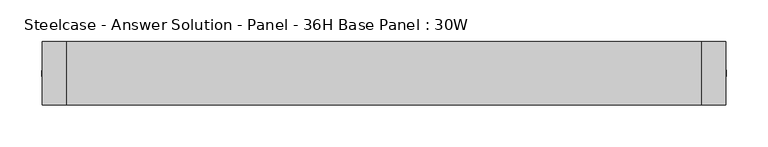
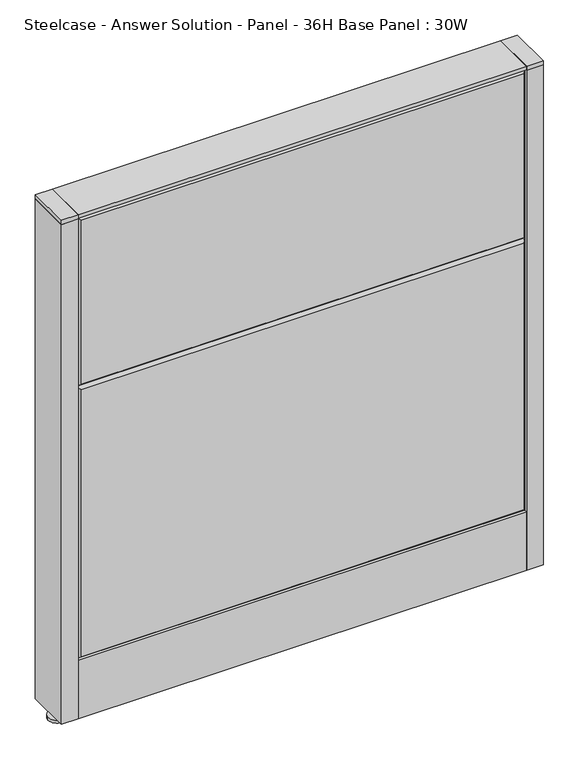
"""IFC4 building model written with IfcOpenShell, lengths in millimetres: furniture geometry, Steelcase - Answer Solution - Panel - 36H Base Panel : 30W."""

import ifcopenshell
import ifcopenshell.guid

model = None  # the IFC model being written
_history = None  # IfcOwnerHistory: only IFC2X3 demands one
_inside = {}  # id of a spatial element -> (the spatial element, [elements in it])
_under = {}  # id of a project, library or spatial element -> (it, [spatial elements below it])
_declared = {}  # id of a project -> (the project, [libraries it declares])
_typed = {}  # id of a type object -> (the type object, [elements of that type])
_made_of = {}  # id of a material, layer set ... -> (it, [elements and type objects made of it])


def new_model(schema):
    """Start an empty IFC model of exactly this schema.

    Asked for "IFC4X3", IfcOpenShell would pick the latest addendum, in which some entities
    have other attributes; the version numbers below select the first issue.
    IFC2X3 requires an IfcOwnerHistory on every rooted entity: one is made here for all.
    """
    global model, _history
    if schema == "IFC4X3":
        model = ifcopenshell.file(schema_version=(4, 3, 0, 0))
    else:
        model = ifcopenshell.file(schema=schema)
    _inside.clear()
    _under.clear()
    _declared.clear()
    _typed.clear()
    _made_of.clear()
    _history = None
    if model.schema == "IFC2X3":
        org = make("IfcOrganization", Name="unknown")
        user = make(
            "IfcPersonAndOrganization",
            ThePerson=make("IfcPerson", FamilyName="unknown"),
            TheOrganization=org,
        )
        app = make(
            "IfcApplication",
            ApplicationDeveloper=org,
            Version="unknown",
            ApplicationFullName="unknown",
            ApplicationIdentifier="unknown",
        )
        _history = make(
            "IfcOwnerHistory",
            OwningUser=user,
            OwningApplication=app,
            ChangeAction="ADDED",
            CreationDate=0,
        )
    return model


def make(cls, **values):
    """One entity of the class cls with the attributes given. An attribute that is None is left unset."""
    return model.create_entity(
        cls, **{name: value for name, value in values.items() if value is not None}
    )


def rooted(cls, **values):
    """An entity with a GlobalId (a new one), such as an element, a storey or a relation."""
    return make(cls, GlobalId=ifcopenshell.guid.new(), OwnerHistory=_history, **values)


def si_unit(unit_type, name, prefix=None):
    """IfcSIUnit, for example si_unit("LENGTHUNIT", "METRE", prefix="MILLI")."""
    return make("IfcSIUnit", UnitType=unit_type, Prefix=prefix, Name=name)


def assignment(units):
    """IfcUnitAssignment: the units of a project."""
    return None if units is None else make("IfcUnitAssignment", Units=units)


def point(xyz):
    """IfcCartesianPoint."""
    return None if xyz is None else make("IfcCartesianPoint", Coordinates=xyz)


def direction(xyz):
    """IfcDirection."""
    return None if xyz is None else make("IfcDirection", DirectionRatios=xyz)


def frame(location, z_axis=None, x_axis=None):
    """IfcAxis2Placement3D, a coordinate frame: its origin and axes. An axis left out is left unset."""
    return make(
        "IfcAxis2Placement3D",
        Location=point(location),
        Axis=direction(z_axis),
        RefDirection=direction(x_axis),
    )


def frame_2d(location, x_axis=None):
    """IfcAxis2Placement2D, a coordinate frame in the plane: its origin and x axis."""
    return make(
        "IfcAxis2Placement2D", Location=point(location), RefDirection=direction(x_axis)
    )


def origin():
    """The frame at (0, 0, 0) with its axes left unset."""
    return frame((0.0, 0.0, 0.0))


def place(relative_to, where):
    """IfcLocalPlacement: puts the frame where relative to a parent placement (None: the world)."""
    return make(
        "IfcLocalPlacement", PlacementRelTo=relative_to, RelativePlacement=where
    )


def context(
    kind, dimensions, precision=None, world=None, true_north=None, identifier=None
):
    """IfcGeometricRepresentationContext, for example the 3D "Model" context."""
    return make(
        "IfcGeometricRepresentationContext",
        ContextIdentifier=identifier,
        ContextType=kind,
        CoordinateSpaceDimension=dimensions,
        Precision=precision,
        WorldCoordinateSystem=world,
        TrueNorth=true_north,
    )


def project(units=None, contexts=None):
    """IfcProject with its units and contexts."""
    return rooted(
        "IfcProject",
        Name="project",
        RepresentationContexts=contexts,
        UnitsInContext=assignment(units),
    )


def spatial(cls, under=None, at=None, **own):
    """A site, building, storey or space (cls), placed at a placement, below another one or the project."""
    s = rooted(cls, ObjectPlacement=at, **own)
    if under is not None:
        _under.setdefault(under.id(), (under, []))[1].append(s)
    return s


def polyline(points):
    """IfcPolyline through the points."""
    return make("IfcPolyline", Points=[point(p) for p in points])


def circle_curve(where, radius):
    """IfcCircle in the frame where."""
    return make("IfcCircle", Position=where, Radius=radius)


def trimmed(basis, trim1, trim2, sense, master):
    """IfcTrimmedCurve: the piece of a basis curve between two trims."""
    return make(
        "IfcTrimmedCurve",
        BasisCurve=basis,
        Trim1=trim1,
        Trim2=trim2,
        SenseAgreement=sense,
        MasterRepresentation=master,
    )


def segment(curve, same_sense, transition):
    """IfcCompositeCurveSegment."""
    return make(
        "IfcCompositeCurveSegment",
        Transition=transition,
        SameSense=same_sense,
        ParentCurve=curve,
    )


def composite_curve(segments, self_intersect=None):
    """IfcCompositeCurve: segments joined end to end."""
    return make("IfcCompositeCurve", Segments=segments, SelfIntersect=self_intersect)


def outline(outer, holes=None, kind="AREA"):
    """IfcArbitraryClosedProfileDef: a profile drawn as a closed curve; with holes, ...WithVoids."""
    if holes is None:
        return make("IfcArbitraryClosedProfileDef", ProfileType=kind, OuterCurve=outer)
    return make(
        "IfcArbitraryProfileDefWithVoids",
        ProfileType=kind,
        OuterCurve=outer,
        InnerCurves=holes,
    )


def extrude(swept, where, along, depth):
    """IfcExtrudedAreaSolid: the profile swept, set in the frame where, extruded along a direction by depth."""
    return make(
        "IfcExtrudedAreaSolid",
        SweptArea=swept,
        Position=where,
        ExtrudedDirection=direction(along),
        Depth=depth,
    )


def faces_of(points, faces, orient=None, outer=None):
    """IfcFace entities. A face is a list of loops; a loop is a list of indices into points, from 0.

    orient and outer hold one flag for each loop. By default every Orientation is true, the
    first loop of a face is its IfcFaceOuterBound and the others are IfcFaceBound.
    """
    made = []
    for i, loops in enumerate(faces):
        bounds = []
        for j, loop in enumerate(loops):
            is_outer = j == 0 if outer is None else outer[i][j]
            bounds.append(
                make(
                    "IfcFaceOuterBound" if is_outer else "IfcFaceBound",
                    Bound=make("IfcPolyLoop", Polygon=[points[k] for k in loop]),
                    Orientation=True if orient is None else orient[i][j],
                )
            )
        made.append(make("IfcFace", Bounds=bounds))
    return made


def faceted_brep(points, faces, orient=None, outer=None, voids=None):
    """IfcFacetedBrep: a solid bounded by flat faces; with voids (closed shells), ...WithVoids."""
    shared = [point(p) for p in points]
    hull = make("IfcClosedShell", CfsFaces=faces_of(shared, faces, orient, outer))
    if voids is None:
        return make("IfcFacetedBrep", Outer=hull)
    return make(
        "IfcFacetedBrepWithVoids",
        Outer=hull,
        Voids=[
            make(cls, CfsFaces=faces_of(shared, fs, o, b)) for cls, fs, o, b in voids
        ],
    )


def shape(context_of_items, identifier, shape_type, items):
    """IfcShapeRepresentation: the items that make up one representation, for example the "Body"."""
    return make(
        "IfcShapeRepresentation",
        ContextOfItems=context_of_items,
        RepresentationIdentifier=identifier,
        RepresentationType=shape_type,
        Items=items,
    )


def source(mapping_origin, context_of_items, identifier, shape_type, items):
    """IfcRepresentationMap: a shape defined once, which mapped items show again and again."""
    return make(
        "IfcRepresentationMap",
        MappingOrigin=mapping_origin,
        MappedRepresentation=shape(context_of_items, identifier, shape_type, items),
    )


def transform(
    local_origin,
    x_axis=None,
    y_axis=None,
    z_axis=None,
    scale=None,
    scale2=None,
    scale3=None,
    uniform=True,
):
    """IfcCartesianTransformationOperator3D, or its non-uniform kind. x_axis, y_axis, z_axis: its Axis1, 2, 3."""
    if uniform:
        return make(
            "IfcCartesianTransformationOperator3D",
            Axis1=direction(x_axis),
            Axis2=direction(y_axis),
            LocalOrigin=point(local_origin),
            Scale=scale,
            Axis3=direction(z_axis),
        )
    return make(
        "IfcCartesianTransformationOperator3DnonUniform",
        Axis1=direction(x_axis),
        Axis2=direction(y_axis),
        LocalOrigin=point(local_origin),
        Scale=scale,
        Axis3=direction(z_axis),
        Scale2=scale2,
        Scale3=scale3,
    )


def mapped(mapping_source, mapping_target):
    """IfcMappedItem: shows the shape of a source again, moved by a transform."""
    return make(
        "IfcMappedItem", MappingSource=mapping_source, MappingTarget=mapping_target
    )


def made_of(thing, what):
    """Note that an element or type object is made of a material, layer set ...; save() writes the relation."""
    if what is not None:
        _made_of.setdefault(what.id(), (what, []))[1].append(thing)
    return thing


def element(
    cls,
    number,
    at=None,
    inside=None,
    cuts=None,
    type_object=None,
    material=None,
    context=None,
    identifier="Body",
    shape_type=None,
    held_by="IfcProductDefinitionShape",
    body=None,
    shapes=None,
    **own,
):
    """One element of the class cls, such as IfcWall. Its Tag is "e" and its number.

    at: its placement. inside: the storey or other place that contains it. cuts: it is an
    opening in that element (IfcRelVoidsElement). A single representation is given by context,
    identifier, shape_type and body (its items); several are given by shapes. held_by: the class
    of the entity that holds the representations. save() writes the other relations.
    """
    e = rooted(cls, Tag="e%d" % number, ObjectPlacement=at, **own)
    if body is not None:
        shapes = [shape(context, identifier, shape_type, body)]
    if shapes is not None:
        e.Representation = make(held_by, Representations=shapes)
    if inside is not None:
        _inside.setdefault(inside.id(), (inside, []))[1].append(e)
    if cuts is not None:
        rooted(
            "IfcRelVoidsElement", RelatingBuildingElement=cuts, RelatedOpeningElement=e
        )
    if type_object is not None:
        _typed.setdefault(type_object.id(), (type_object, []))[1].append(e)
    return made_of(e, material)


def aggregate(whole, parts):
    """IfcRelAggregates: a whole, such as a stair, and the parts it consists of."""
    return rooted("IfcRelAggregates", RelatingObject=whole, RelatedObjects=parts)


def save(model, path):
    """Write the relations noted so far, then the file.

    IfcRelAggregates (storeys below a building ...), IfcRelContainedInSpatialStructure (elements
    in a storey), IfcRelDefinesByType, IfcRelAssociatesMaterial and IfcRelDeclares: one each for
    every whole, place, type object, material and project.
    """
    for whole, parts in _under.values():
        aggregate(whole, parts)
    for where, things in _inside.values():
        rooted(
            "IfcRelContainedInSpatialStructure",
            RelatedElements=things,
            RelatingStructure=where,
        )
    for kind, things in _typed.values():
        rooted("IfcRelDefinesByType", RelatedObjects=things, RelatingType=kind)
    for what, things in _made_of.values():
        rooted("IfcRelAssociatesMaterial", RelatedObjects=things, RelatingMaterial=what)
    for by, libraries in _declared.values():
        rooted("IfcRelDeclares", RelatingContext=by, RelatedDefinitions=libraries)
    model.write(path)


def steelcase_answer_solution_panel_36h_base_panel_30w_2e865bf8(model_context):
    return source(origin(), model_context, "Body", "SolidModel", [
        extrude(outline(composite_curve([segment(trimmed(circle_curve(frame_2d((395.224, 0.0320214)), 5.08), [point((400.304, 0.0320214))], [point((390.144, 0.0320214))], False, "CARTESIAN"), True, "CONTINUOUS"), segment(trimmed(circle_curve(frame_2d((395.224, 0.0320214)), 5.08), [point((390.144, 0.0320214))], [point((400.304, 0.0320214))], False, "CARTESIAN"), True, "CONTINUOUS")], self_intersect=False)), frame((0.0, 0.0, 5.0799671), z_axis=(0.0, 0.0, 1.0), x_axis=(1.0, 0.0, 0.0)), (0.0, 0.0, 1.0), 10.414),
        extrude(outline(composite_curve([segment(trimmed(circle_curve(frame_2d((395.224, 0.0320214)), 15.24), [point((410.464, 0.0320214))], [point((379.984, 0.0320214))], False, "CARTESIAN"), True, "CONTINUOUS"), segment(trimmed(circle_curve(frame_2d((395.224, 0.0320214)), 15.24), [point((379.984, 0.0320214))], [point((410.464, 0.0320214))], False, "CARTESIAN"), True, "CONTINUOUS")], self_intersect=False)), frame((0.0, 0.0, -3.29e-05), z_axis=(0.0, 0.0, 1.0), x_axis=(1.0, 0.0, 0.0)), (0.0, 0.0, 1.0), 5.08),
        extrude(outline(polyline([(409.575, 38.1320408), (409.575, -38.0679592), (381.0, -38.0679592), (381.0, 38.1320408), (409.575, 38.1320408)])), frame((0.0, 0.0, 913.4348), z_axis=(0.0, 0.0, 1.0), x_axis=(1.0, 0.0, 0.0)), (0.0, 0.0, 1.0), 7.3151671),
        extrude(outline(polyline([(409.575, 38.1320408), (409.575, -38.0679592), (381.0, -38.0679592), (381.0, 38.1320408), (409.575, 38.1320408)])), frame((0.0, 0.0, 15.4939671), z_axis=(0.0, 0.0, 1.0), x_axis=(1.0, 0.0, 0.0)), (0.0, 0.0, 1.0), 897.9408329),
        extrude(outline(composite_curve([segment(trimmed(circle_curve(frame_2d((-395.224, -0.0320214)), 5.08), [point((-400.304, -0.0320214))], [point((-390.144, -0.0320214))], False, "CARTESIAN"), True, "CONTINUOUS"), segment(trimmed(circle_curve(frame_2d((-395.224, -0.0320214)), 5.08), [point((-390.144, -0.0320214))], [point((-400.304, -0.0320214))], False, "CARTESIAN"), True, "CONTINUOUS")], self_intersect=False)), frame((0.0, 0.0, 5.0799671), z_axis=(0.0, 0.0, 1.0), x_axis=(1.0, 0.0, 0.0)), (0.0, 0.0, 1.0), 10.414),
        extrude(outline(composite_curve([segment(trimmed(circle_curve(frame_2d((-395.224, -0.0320214)), 15.24), [point((-410.464, -0.0320214))], [point((-379.984, -0.0320214))], False, "CARTESIAN"), True, "CONTINUOUS"), segment(trimmed(circle_curve(frame_2d((-395.224, -0.0320214)), 15.24), [point((-379.984, -0.0320214))], [point((-410.464, -0.0320214))], False, "CARTESIAN"), True, "CONTINUOUS")], self_intersect=False)), frame((0.0, 0.0, -3.29e-05), z_axis=(0.0, 0.0, 1.0), x_axis=(1.0, 0.0, 0.0)), (0.0, 0.0, 1.0), 5.08),
        extrude(outline(polyline([(-409.575, -38.1320408), (-409.575, 38.0679592), (-381.0, 38.0679592), (-381.0, -38.1320408), (-409.575, -38.1320408)])), frame((0.0, 0.0, 913.4348), z_axis=(0.0, 0.0, 1.0), x_axis=(1.0, 0.0, 0.0)), (0.0, 0.0, 1.0), 7.3151671),
        extrude(outline(polyline([(-409.575, -38.1320408), (-409.575, 38.0679592), (-381.0, 38.0679592), (-381.0, -38.1320408), (-409.575, -38.1320408)])), frame((0.0, 0.0, 15.4939671), z_axis=(0.0, 0.0, 1.0), x_axis=(1.0, 0.0, 0.0)), (0.0, 0.0, 1.0), 897.9408329),
        faceted_brep([(376.174, 38.1635011, 909.574), (376.174, 38.1635011, 462.026), (-376.174, 38.1635011, 462.026), (-376.174, 38.1635011, 909.574), (381.0, 33.3375011, 914.4), (-381.0, 33.3375011, 914.4), (-381.0, 33.3375011, 457.2), (381.0, 33.3375011, 457.2)], [[[0, 1, 2, 3]], [[4, 5, 6, 7]], [[4, 0, 3, 5]], [[5, 3, 2, 6]], [[6, 2, 1, 7]], [[7, 1, 0, 4]]]),
        faceted_brep([(376.174, 38.1635011, 452.374), (376.174, 38.1635011, 125.476), (-376.174, 38.1635011, 125.476), (-376.174, 38.1635011, 452.374), (381.0, 33.3375011, 457.2), (-381.0, 33.3375011, 457.2), (-381.0, 33.3375011, 120.65), (381.0, 33.3375011, 120.65)], [[[0, 1, 2, 3]], [[4, 5, 6, 7]], [[4, 0, 3, 5]], [[5, 3, 2, 6]], [[6, 2, 1, 7]], [[7, 1, 0, 4]]]),
        faceted_brep([(376.174, -38.1635011, 909.574), (-376.174, -38.1635011, 909.574), (-376.174, -38.1635011, 614.426), (376.174, -38.1635011, 614.426), (381.0, -33.3375011, 914.4), (381.0, -33.3375011, 609.6), (-381.0, -33.3375011, 609.6), (-381.0, -33.3375011, 914.4)], [[[0, 1, 2, 3]], [[4, 5, 6, 7]], [[4, 7, 1, 0]], [[7, 6, 2, 1]], [[6, 5, 3, 2]], [[5, 4, 0, 3]]]),
        faceted_brep([(376.174, -38.1635011, 604.774), (-376.174, -38.1635011, 604.774), (-376.174, -38.1635011, 125.476), (376.174, -38.1635011, 125.476), (381.0, -33.3375011, 609.6), (381.0, -33.3375011, 120.65), (-381.0, -33.3375011, 120.65), (-381.0, -33.3375011, 609.6)], [[[0, 1, 2, 3]], [[4, 5, 6, 7]], [[4, 7, 1, 0]], [[7, 6, 2, 1]], [[6, 5, 3, 2]], [[5, 4, 0, 3]]]),
        extrude(outline(polyline([(381.0, 38.1000194), (381.0, -38.1000194), (-381.0, -38.1000194), (-381.0, 38.1000194), (381.0, 38.1000194)])), frame((0.0, 0.0, 914.4), z_axis=(0.0, 0.0, 1.0), x_axis=(1.0, 0.0, 0.0)), (0.0, 0.0, 1.0), 6.35),
        extrude(outline(polyline([(37.3075215, 119.8575157), (25.4000011, 119.8575157), (25.4000011, 120.65), (38.1000194, 120.65), (38.1000194, 15.494), (37.3075215, 15.494), (37.3075215, 119.8575157)])), frame((-381.0, 0.0, 0.0), z_axis=(1.0, 0.0, 0.0), x_axis=(0.0, 1.0, 0.0)), (0.0, 0.0, 1.0), 762.0),
        extrude(outline(polyline([(-37.3075215, 119.8575157), (-37.3075215, 15.494), (-38.1000194, 15.494), (-38.1000194, 120.65), (-25.4000011, 120.65), (-25.4000011, 119.8575157), (-37.3075215, 119.8575157)])), frame((-381.0, 0.0, 0.0), z_axis=(1.0, 0.0, 0.0), x_axis=(0.0, 1.0, 0.0)), (0.0, 0.0, 1.0), 762.0),
    ])


if __name__ == "__main__":
    model = new_model("IFC4")
    model_context = context("Model", 3, world=origin())
    ifc_project = project(units=[si_unit("LENGTHUNIT", "METRE", prefix="MILLI")], contexts=[model_context])
    site = spatial("IfcSite", under=ifc_project)
    building = spatial("IfcBuilding", under=site)
    placement = place(None, origin())
    steelcase_answer_solution_panel_36h_base_panel_30w_shape = steelcase_answer_solution_panel_36h_base_panel_30w_2e865bf8(model_context)
    element("IfcFurniture", 1, ObjectType="Steelcase - Answer Solution - Panel - 36H Base Panel : 30W", at=placement, inside=building, context=model_context, shape_type="MappedRepresentation", body=[
        mapped(steelcase_answer_solution_panel_36h_base_panel_30w_shape, transform((0.0, 0.0, 0.0), x_axis=(1.0, 0.0, 0.0), y_axis=(0.0, 1.0, 0.0), z_axis=(0.0, 0.0, 1.0))),
    ])
    save(model, "model.ifc")
